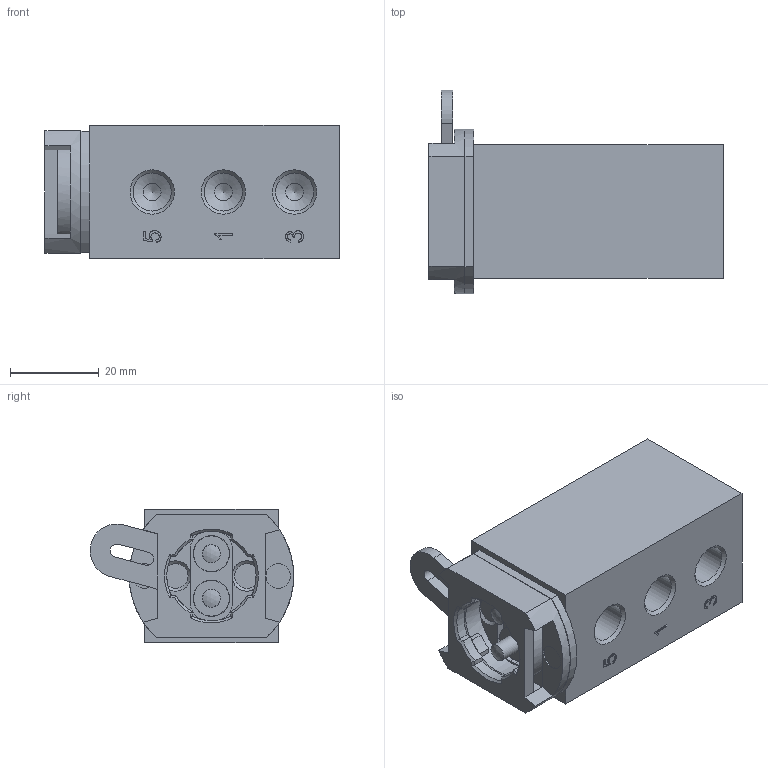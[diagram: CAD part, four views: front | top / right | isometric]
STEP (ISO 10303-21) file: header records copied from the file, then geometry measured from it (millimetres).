
FILE_DESCRIPTION( ( 'Unknown' ), '1' );
FILE_NAME( 'Q:/Solid Edge ST4/weblap modellek/stp/második adag/BA 730 301.stp', 'Unknown', ( 'Unknown' ), ( 'Unknown' ), 'PSStep 14.0', 'Unknown', ' ' );
FILE_SCHEMA( ( 'AUTOMOTIVE_DESIGN { 1 0 10303 214 1 1 1 1 }' ) );
Length unit declared in the file: millimetre
Products named in the file (15): Assem1; -oa0
Assembly tree (14 placements, depth 2):
  Assem1
    -oa0
    -oa0
    -oa0
    -oa0
    -oa0
    -oa0
    -oa0
    -oa0
    -oa0
    -oa0
    -oa0
    -oa0
    -oa0
    -oa0
Bounding box: 66.1 x 45.73 x 30 mm (x, y, z)
Surface area: 19168.8 mm2 (no closed solid volume)
Topology: 0 solids, 291 shells, 291 faces, 1390 edges, 1321 vertices
Faces by surface type: plane 161, cylinder 59, cone 45, extrusion 24, sphere 2
Full cylindrical faces by diameter (mm): 1 x2, 2.8 x4, 4 x2, 5 x2, 5.5 x3, 5.6 x2, 8 x2, 8.06 x2, 8.566 x14, 20.1 x1, 24 x1
Entity records: 16625 total; most frequent: CARTESIAN_POINT 5632, DIRECTION 2079, ORIENTED_EDGE 1288, EDGE_CURVE 1288, VERTEX_POINT 1288, VECTOR 817, LINE 793, AXIS2_PLACEMENT_3D 631
